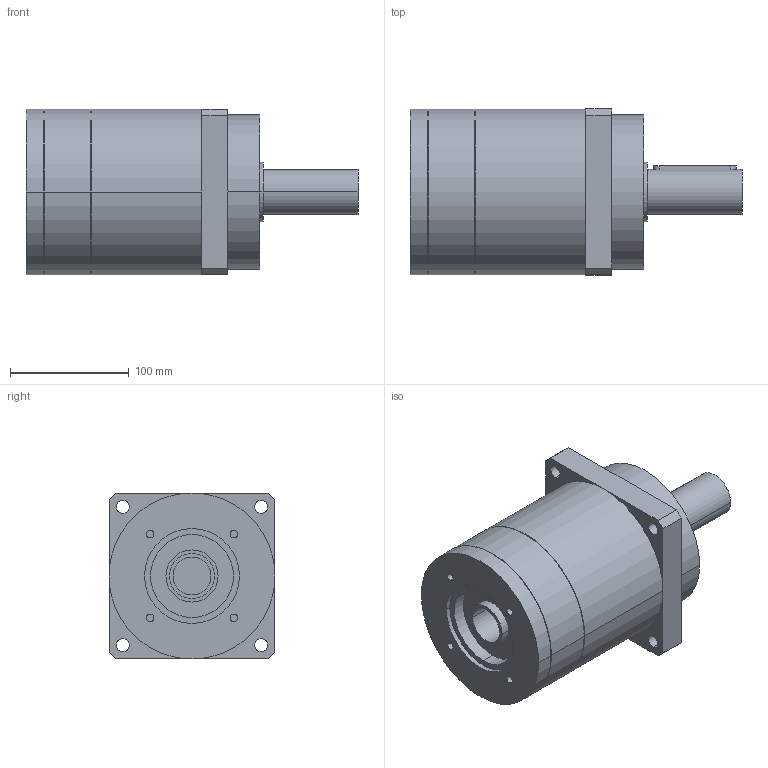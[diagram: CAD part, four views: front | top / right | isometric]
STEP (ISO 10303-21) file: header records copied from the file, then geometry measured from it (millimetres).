
FILE_DESCRIPTION(('CoCreate Modeling STEP Export'),'2;1');
FILE_NAME('GPR150_ig-3-4-5-7_38_B5_32_P02.stp','2014-08-19T16:42:54',(''),(''),'CoCreate Modeling STEP processor for AP214 (Solid Model)','CoCreate Modeling 16.00C 25-Feb-2009 (C) Parametric Technology GmbH','');
FILE_SCHEMA(('AUTOMOTIVE_DESIGN { 1 0 10303 214 1 1 1 1 }'));
Length unit declared in the file: millimetre
Products named in the file (2): GPR150_ig-3-4-5-7_38_B5_32_P02
Assembly tree (1 placements, depth 2):
  GPR150_ig-3-4-5-7_38_B5_32_P02
    GPR150_ig-3-4-5-7_38_B5_32_P02
Bounding box: 280 x 140 x 140 mm (x, y, z)
Volume: 3036667.5 mm3; surface area: 154980.9 mm2
Topology: 1 solids, 1 shells, 91 faces, 229 edges, 157 vertices
Faces by surface type: cylinder 54, plane 31, cone 6
Entity records: 2387 total; most frequent: ORIENTED_EDGE 454, CARTESIAN_POINT 435, DIRECTION 330, EDGE_CURVE 227, VERTEX_POINT 157, AXIS2_PLACEMENT_3D 124, EDGE_LOOP 118, FACE_OUTER_BOUND 91
